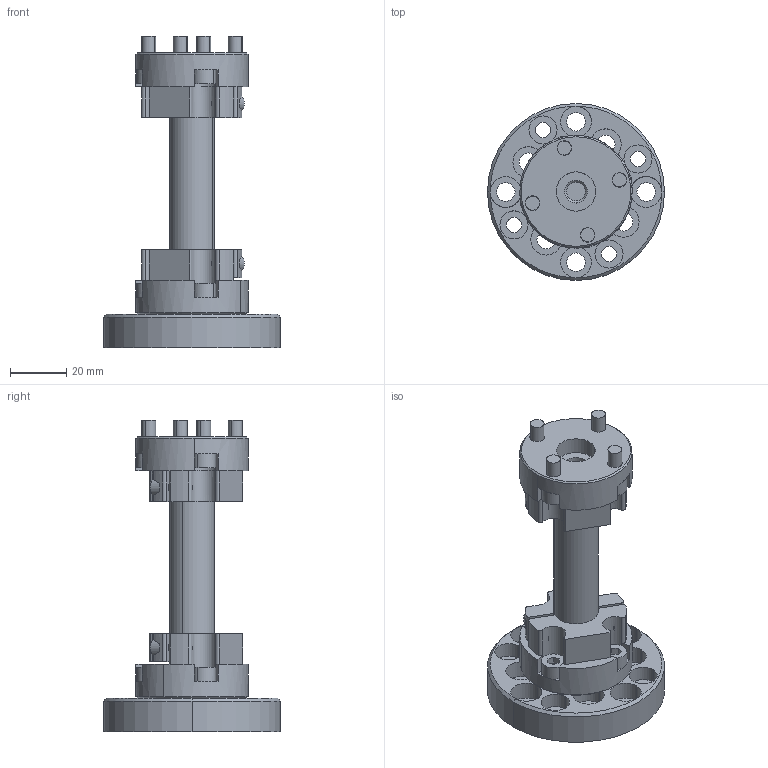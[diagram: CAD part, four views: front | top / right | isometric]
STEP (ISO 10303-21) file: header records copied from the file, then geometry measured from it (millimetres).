
FILE_DESCRIPTION (( 'STEP AP214' ), '1' );
FILE_NAME ('FCM_R06_02_02_.STEP', '2019-12-04T09:27:37', ( '微软用户' ), ( '微软中国' ), 'SwSTEP 2.0', 'SolidWorks 2016', '' );
FILE_SCHEMA (( 'AUTOMOTIVE_DESIGN' ));
Length unit declared in the file: millimetre
Products named in the file (1): FCM_R06_02_02_
Bounding box: 63 x 63 x 111 mm (x, y, z)
Volume: 78946.6 mm3; surface area: 32338.8 mm2
Topology: 2 solids, 2 shells, 453 faces, 1125 edges, 728 vertices
Faces by surface type: plane 219, cylinder 204, cone 30
Entity records: 18807 total; most frequent: DIRECTION 2507, CARTESIAN_POINT 2483, ORIENTED_EDGE 2250, EDGE_CURVE 1125, AXIS2_PLACEMENT_3D 952, VERTEX_POINT 728, LINE 603, VECTOR 603
